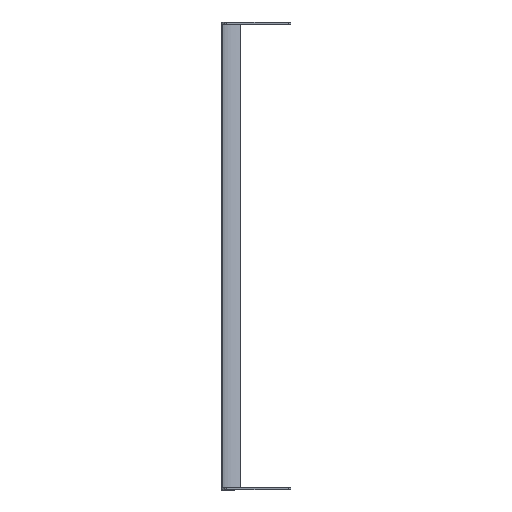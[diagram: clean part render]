
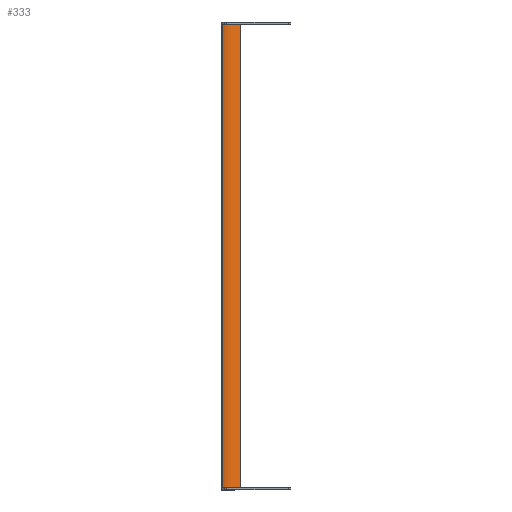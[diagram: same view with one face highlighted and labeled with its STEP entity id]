
A CAD part, left-side view. The second image highlights one B-rep face of the part: STEP entity #333.
In plain terms, the highlighted cylindrical face has radius 40.64 mm (diameter 81.28 mm), a partial arc.
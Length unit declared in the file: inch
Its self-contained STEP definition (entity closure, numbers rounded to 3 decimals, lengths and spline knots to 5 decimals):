
#40=CARTESIAN_POINT('',(-1.52,1.63,-12.118));
#41=DIRECTION('',(0.,0.,-1.));
#42=DIRECTION('',(0.914,-0.405,0.));
#43=AXIS2_PLACEMENT_3D('',#40,#41,#42);
#87=CARTESIAN_POINT('',(-1.52,1.63,12.118));
#88=DIRECTION('',(0.,0.,-1.));
#89=DIRECTION('',(0.914,-0.405,0.));
#90=AXIS2_PLACEMENT_3D('',#87,#88,#89);
#118=DIRECTION('',(0.,0.,1.));
#119=VECTOR('',#118,24.236);
#120=CARTESIAN_POINT('',(-1.00032,0.11675,-12.118));
#121=LINE('',#120,#119);
#122=DIRECTION('',(0.,0.,1.));
#123=VECTOR('',#122,24.236);
#124=CARTESIAN_POINT('',(-0.05742,0.98126,-12.118));
#125=LINE('',#124,#123);
#154=CARTESIAN_POINT('',(-0.05742,0.98126,-12.118));
#155=VERTEX_POINT('',#154);
#156=CARTESIAN_POINT('',(-1.00032,0.11675,-12.118));
#157=VERTEX_POINT('',#156);
#174=CARTESIAN_POINT('',(-0.05742,0.98126,12.118));
#175=VERTEX_POINT('',#174);
#176=CARTESIAN_POINT('',(-1.00032,0.11675,12.118));
#177=VERTEX_POINT('',#176);
#321=CARTESIAN_POINT('',(-1.52,1.63,-12.118));
#322=DIRECTION('',(0.,0.,1.));
#323=DIRECTION('',(1.,0.,0.));
#324=AXIS2_PLACEMENT_3D('',#321,#322,#323);
#325=CYLINDRICAL_SURFACE('',#324,1.6);
#326=ORIENTED_EDGE('',*,*,#191,.F.);
#328=ORIENTED_EDGE('',*,*,#327,.T.);
#329=ORIENTED_EDGE('',*,*,#247,.T.);
#330=ORIENTED_EDGE('',*,*,#314,.F.);
#331=EDGE_LOOP('',(#326,#328,#329,#330));
#332=FACE_OUTER_BOUND('',#331,.F.);
#44=CIRCLE('',#43,1.6);
#91=CIRCLE('',#90,1.6);
#191=EDGE_CURVE('',#155,#157,#44,.T.);
#247=EDGE_CURVE('',#175,#177,#91,.T.);
#314=EDGE_CURVE('',#157,#177,#121,.T.);
#327=EDGE_CURVE('',#155,#175,#125,.T.);
#333=ADVANCED_FACE('',(#332),#325,.F.);
